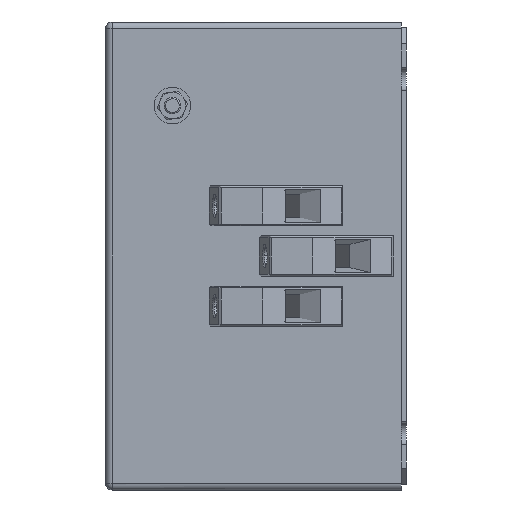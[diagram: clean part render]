
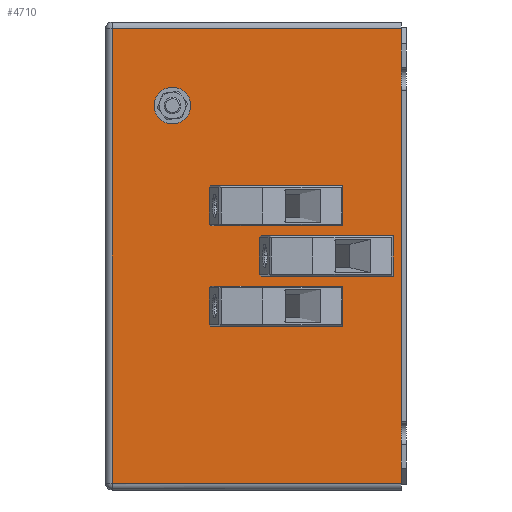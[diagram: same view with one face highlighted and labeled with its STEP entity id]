
A CAD part, left-side view. The second image highlights one B-rep face of the part: STEP entity #4710.
In plain terms, the highlighted planar face has unit normal (-1, 0, 0).
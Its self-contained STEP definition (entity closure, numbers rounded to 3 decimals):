
#67 = CARTESIAN_POINT ( 'NONE',  ( 15., 1.5, 136.5 ) ) ;
#130 = DIRECTION ( 'NONE',  ( 0., 0., 1. ) ) ;
#274 = CARTESIAN_POINT ( 'NONE',  ( 15., 1.5, 0.5 ) ) ;
#452 = DIRECTION ( 'NONE',  ( 0., 0., -1. ) ) ;
#490 = CARTESIAN_POINT ( 'NONE',  ( 15., 70., 113.5 ) ) ;
#524 = CARTESIAN_POINT ( 'NONE',  ( 15., 52., 55.1 ) ) ;
#547 = LINE ( 'NONE', #8623, #5976 ) ;
#602 = CARTESIAN_POINT ( 'NONE',  ( 15., 37., 70.1 ) ) ;
#678 = VERTEX_POINT ( 'NONE', #3317 ) ;
#793 = VERTEX_POINT ( 'NONE', #602 ) ;
#1208 = DIRECTION ( 'NONE',  ( 1., 0., 0. ) ) ;
#1247 = VECTOR ( 'NONE', #2030, 1000. ) ;
#1350 = DIRECTION ( 'NONE',  ( 0., 0., -1. ) ) ;
#1401 = CARTESIAN_POINT ( 'NONE',  ( 15., 52., 53.5 ) ) ;
#1466 = EDGE_LOOP ( 'NONE', ( #5182, #1631, #3339, #6659 ) ) ;
#1551 = FACE_BOUND ( 'NONE', #4530, .T. ) ;
#1589 = VERTEX_POINT ( 'NONE', #1854 ) ;
#1603 = ORIENTED_EDGE ( 'NONE', *, *, #2181, .T. ) ;
#1613 = VERTEX_POINT ( 'NONE', #8948 ) ;
#1631 = ORIENTED_EDGE ( 'NONE', *, *, #2299, .T. ) ;
#1686 = EDGE_CURVE ( 'NONE', #9200, #793, #8236, .T. ) ;
#1854 = CARTESIAN_POINT ( 'NONE',  ( 15., 88., 136.5 ) ) ;
#1859 = VECTOR ( 'NONE', #3729, 1000. ) ;
#1929 = ORIENTED_EDGE ( 'NONE', *, *, #7825, .T. ) ;
#1986 = AXIS2_PLACEMENT_3D ( 'NONE', #2011, #1208, #5515 ) ;
#2011 = CARTESIAN_POINT ( 'NONE',  ( 15., 37., 68.5 ) ) ;
#2030 = DIRECTION ( 'NONE',  ( 0., -1., 0. ) ) ;
#2059 = CARTESIAN_POINT ( 'NONE',  ( 15., 37., 66.9 ) ) ;
#2107 = EDGE_LOOP ( 'NONE', ( #1603, #2763 ) ) ;
#2181 = EDGE_CURVE ( 'NONE', #3950, #4449, #3261, .T. ) ;
#2221 = FACE_BOUND ( 'NONE', #2107, .T. ) ;
#2285 = DIRECTION ( 'NONE',  ( 1., 0., 0. ) ) ;
#2299 = EDGE_CURVE ( 'NONE', #6388, #3328, #2697, .T. ) ;
#2364 = CIRCLE ( 'NONE', #6288, 1.6 ) ;
#2400 = AXIS2_PLACEMENT_3D ( 'NONE', #490, #6836, #6257 ) ;
#2413 = ORIENTED_EDGE ( 'NONE', *, *, #3559, .T. ) ;
#2518 = CARTESIAN_POINT ( 'NONE',  ( 15., 88., 0.5 ) ) ;
#2697 = LINE ( 'NONE', #4128, #1247 ) ;
#2763 = ORIENTED_EDGE ( 'NONE', *, *, #5312, .T. ) ;
#3117 = EDGE_CURVE ( 'NONE', #7543, #1589, #5236, .T. ) ;
#3261 = CIRCLE ( 'NONE', #4683, 1.6 ) ;
#3285 = AXIS2_PLACEMENT_3D ( 'NONE', #1401, #9038, #452 ) ;
#3317 = CARTESIAN_POINT ( 'NONE',  ( 15., 70., 116. ) ) ;
#3328 = VERTEX_POINT ( 'NONE', #274 ) ;
#3339 = ORIENTED_EDGE ( 'NONE', *, *, #4342, .T. ) ;
#3429 = CARTESIAN_POINT ( 'NONE',  ( 15., 90., -1.5 ) ) ;
#3452 = CIRCLE ( 'NONE', #7641, 1.6 ) ;
#3559 = EDGE_CURVE ( 'NONE', #678, #5623, #4795, .T. ) ;
#3680 = FACE_BOUND ( 'NONE', #7830, .T. ) ;
#3729 = DIRECTION ( 'NONE',  ( 0., 0., -1. ) ) ;
#3768 = LINE ( 'NONE', #6586, #1859 ) ;
#3950 = VERTEX_POINT ( 'NONE', #4685 ) ;
#4128 = CARTESIAN_POINT ( 'NONE',  ( 15., 90., 0.5 ) ) ;
#4138 = DIRECTION ( 'NONE',  ( 0., 0., -1. ) ) ;
#4289 = DIRECTION ( 'NONE',  ( 1., 0., 0. ) ) ;
#4342 = EDGE_CURVE ( 'NONE', #3328, #7543, #547, .T. ) ;
#4449 = VERTEX_POINT ( 'NONE', #8057 ) ;
#4530 = EDGE_LOOP ( 'NONE', ( #6637, #1929 ) ) ;
#4554 = CIRCLE ( 'NONE', #7818, 2.5 ) ;
#4683 = AXIS2_PLACEMENT_3D ( 'NONE', #6095, #8907, #7578 ) ;
#4685 = CARTESIAN_POINT ( 'NONE',  ( 15., 52., 81.9 ) ) ;
#4710 = ADVANCED_FACE ( 'NONE', ( #2221, #3680, #1551, #6980, #4888 ), #7591, .F. ) ;
#4795 = CIRCLE ( 'NONE', #2400, 2.5 ) ;
#4888 = FACE_OUTER_BOUND ( 'NONE', #1466, .T. ) ;
#4996 = EDGE_CURVE ( 'NONE', #5623, #678, #4554, .T. ) ;
#5013 = DIRECTION ( 'NONE',  ( 0., 0., -1. ) ) ;
#5092 = CARTESIAN_POINT ( 'NONE',  ( 15., 70., 113.5 ) ) ;
#5182 = ORIENTED_EDGE ( 'NONE', *, *, #5631, .T. ) ;
#5199 = CARTESIAN_POINT ( 'NONE',  ( 15., 70., 111. ) ) ;
#5236 = LINE ( 'NONE', #7685, #8667 ) ;
#5312 = EDGE_CURVE ( 'NONE', #4449, #3950, #3452, .T. ) ;
#5440 = DIRECTION ( 'NONE',  ( 1., 0., 0. ) ) ;
#5515 = DIRECTION ( 'NONE',  ( 0., 0., -1. ) ) ;
#5623 = VERTEX_POINT ( 'NONE', #5199 ) ;
#5631 = EDGE_CURVE ( 'NONE', #1589, #6388, #3768, .T. ) ;
#5976 = VECTOR ( 'NONE', #130, 1000. ) ;
#6025 = CIRCLE ( 'NONE', #7479, 1.6 ) ;
#6095 = CARTESIAN_POINT ( 'NONE',  ( 15., 52., 83.5 ) ) ;
#6153 = AXIS2_PLACEMENT_3D ( 'NONE', #3429, #6204, #4138 ) ;
#6204 = DIRECTION ( 'NONE',  ( 1., 0., 0. ) ) ;
#6213 = CARTESIAN_POINT ( 'NONE',  ( 15., 37., 68.5 ) ) ;
#6257 = DIRECTION ( 'NONE',  ( 0., 0., -1. ) ) ;
#6279 = CARTESIAN_POINT ( 'NONE',  ( 15., 52., 83.5 ) ) ;
#6288 = AXIS2_PLACEMENT_3D ( 'NONE', #6213, #5440, #8997 ) ;
#6388 = VERTEX_POINT ( 'NONE', #2518 ) ;
#6553 = ORIENTED_EDGE ( 'NONE', *, *, #4996, .T. ) ;
#6586 = CARTESIAN_POINT ( 'NONE',  ( 15., 88., -1.5 ) ) ;
#6637 = ORIENTED_EDGE ( 'NONE', *, *, #1686, .T. ) ;
#6659 = ORIENTED_EDGE ( 'NONE', *, *, #3117, .T. ) ;
#6799 = CIRCLE ( 'NONE', #3285, 1.6 ) ;
#6836 = DIRECTION ( 'NONE',  ( 1., 0., 0. ) ) ;
#6980 = FACE_BOUND ( 'NONE', #8070, .T. ) ;
#7223 = EDGE_CURVE ( 'NONE', #8425, #1613, #6799, .T. ) ;
#7248 = DIRECTION ( 'NONE',  ( 0., 0., -1. ) ) ;
#7383 = ORIENTED_EDGE ( 'NONE', *, *, #7988, .T. ) ;
#7479 = AXIS2_PLACEMENT_3D ( 'NONE', #8535, #4289, #5013 ) ;
#7543 = VERTEX_POINT ( 'NONE', #67 ) ;
#7578 = DIRECTION ( 'NONE',  ( 0., 0., -1. ) ) ;
#7591 = PLANE ( 'NONE',  #6153 ) ;
#7623 = DIRECTION ( 'NONE',  ( 0., 1., 0. ) ) ;
#7641 = AXIS2_PLACEMENT_3D ( 'NONE', #6279, #7668, #1350 ) ;
#7668 = DIRECTION ( 'NONE',  ( 1., 0., 0. ) ) ;
#7685 = CARTESIAN_POINT ( 'NONE',  ( 15., 90., 136.5 ) ) ;
#7818 = AXIS2_PLACEMENT_3D ( 'NONE', #5092, #2285, #7248 ) ;
#7825 = EDGE_CURVE ( 'NONE', #793, #9200, #2364, .T. ) ;
#7830 = EDGE_LOOP ( 'NONE', ( #7383, #8382 ) ) ;
#7988 = EDGE_CURVE ( 'NONE', #1613, #8425, #6025, .T. ) ;
#8057 = CARTESIAN_POINT ( 'NONE',  ( 15., 52., 85.1 ) ) ;
#8070 = EDGE_LOOP ( 'NONE', ( #6553, #2413 ) ) ;
#8236 = CIRCLE ( 'NONE', #1986, 1.6 ) ;
#8382 = ORIENTED_EDGE ( 'NONE', *, *, #7223, .T. ) ;
#8425 = VERTEX_POINT ( 'NONE', #524 ) ;
#8535 = CARTESIAN_POINT ( 'NONE',  ( 15., 52., 53.5 ) ) ;
#8623 = CARTESIAN_POINT ( 'NONE',  ( 15., 1.5, -1.5 ) ) ;
#8667 = VECTOR ( 'NONE', #7623, 1000. ) ;
#8907 = DIRECTION ( 'NONE',  ( 1., 0., 0. ) ) ;
#8948 = CARTESIAN_POINT ( 'NONE',  ( 15., 52., 51.9 ) ) ;
#8997 = DIRECTION ( 'NONE',  ( 0., 0., -1. ) ) ;
#9038 = DIRECTION ( 'NONE',  ( 1., 0., 0. ) ) ;
#9200 = VERTEX_POINT ( 'NONE', #2059 ) ;
